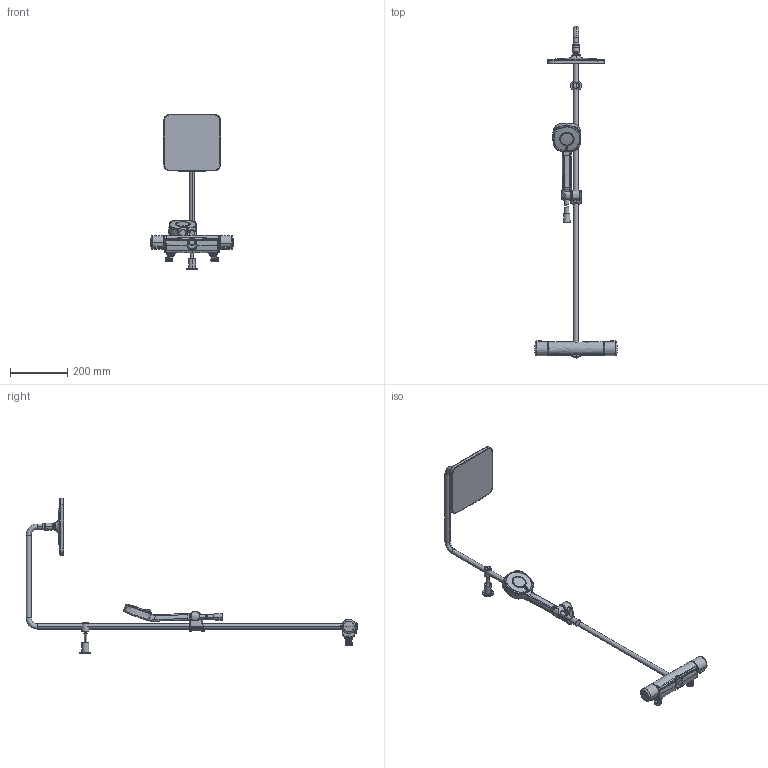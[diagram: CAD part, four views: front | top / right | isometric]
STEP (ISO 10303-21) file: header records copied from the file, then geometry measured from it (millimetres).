
FILE_DESCRIPTION (( 'STEP AP203' ), '1' );
FILE_NAME ('7405(2021).STEP', '2020-12-15T12:38:56', ( '' ), ( '' ), 'SwSTEP 2.0', 'SolidWorks 2016', '' );
FILE_SCHEMA (( 'CONFIG_CONTROL_DESIGN' ));
Length unit declared in the file: millimetre
Products named in the file (1): 7405(2021)
Bounding box: 289.92 x 1162.4 x 545.47 mm (x, y, z)
Volume: 1913626.4 mm3; surface area: 404237.4 mm2
Topology: 24 solids, 24 shells, 890 faces, 2042 edges, 1200 vertices
Faces by surface type: bspline 408, cylinder 197, plane 104, torus 77, cone 68, sphere 36
Entity records: 82694 total; most frequent: CARTESIAN_POINT 66029, ORIENTED_EDGE 4052, DIRECTION 2587, EDGE_CURVE 2026, VERTEX_POINT 1198, AXIS2_PLACEMENT_3D 1135, B_SPLINE_CURVE_WITH_KNOTS 946, EDGE_LOOP 906
